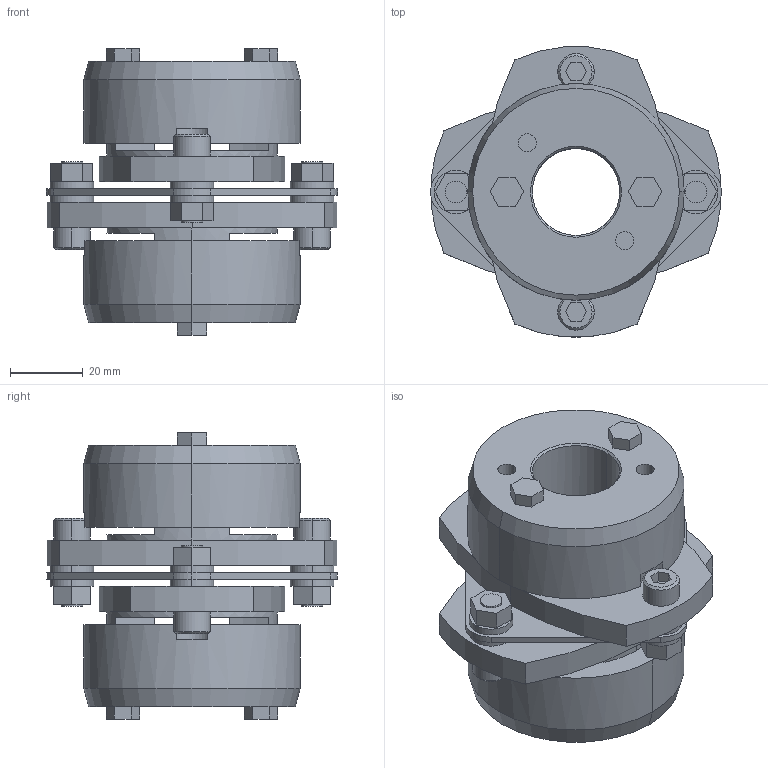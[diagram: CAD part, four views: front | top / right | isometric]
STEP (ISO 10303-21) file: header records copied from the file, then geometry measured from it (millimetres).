
FILE_DESCRIPTION((''),'2;1');
FILE_NAME('LCS-80T7-24×24.stp','2011-09-12T16:27:34',(''),(''),'AutoCAD STEP 2000i','AutoCAD 2000i',', , ');
FILE_SCHEMA(('CONFIG_CONTROL_DESIGN'));
Length unit declared in the file: millimetre
Products named in the file (10): LCS-80T7-24×24; 忣兜1; LC80T7-T024-1; LC80T7-T024; LC80T7-T022; LC80T7-T019-1; LC80T7-T019; LC80T7-T017-1; LC80T7-T017; LCS80-ITA
Assembly tree (9 placements, depth 2):
  LCS-80T7-24×24
    忣兜1
    LC80T7-T024-1
    LC80T7-T024
    LC80T7-T022
    LC80T7-T019-1
    LC80T7-T019
    LC80T7-T017-1
    LC80T7-T017
    LCS80-ITA
Bounding box: 80 x 79.95 x 78.75 mm (x, y, z)
Volume: 160912.6 mm3; surface area: 44229.3 mm2
Topology: 1 solids, 1 shells, 226 faces, 556 edges, 364 vertices
Faces by surface type: plane 122, cylinder 84, cone 20
Entity records: 6969 total; most frequent: DIRECTION 1240, CARTESIAN_POINT 1156, ORIENTED_EDGE 1112, EDGE_CURVE 556, AXIS2_PLACEMENT_3D 448, VERTEX_POINT 364, VECTOR 344, LINE 344
